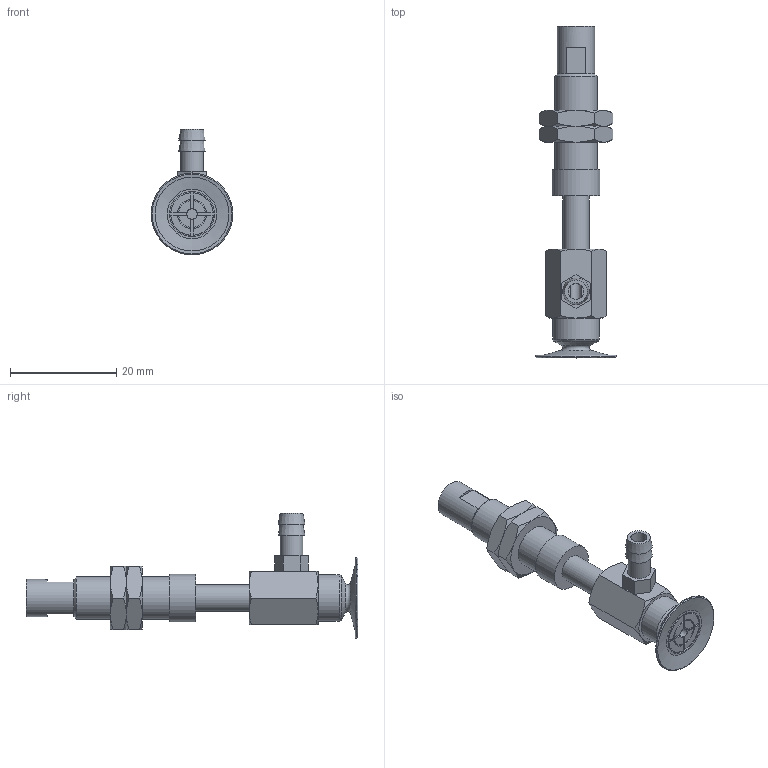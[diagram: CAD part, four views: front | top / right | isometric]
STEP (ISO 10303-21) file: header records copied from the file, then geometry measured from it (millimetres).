
FILE_DESCRIPTION(('STEP AP203'),'1');
FILE_NAME('-T.stp','2025-02-14T06:45:15',(' '),(' '),'Spatial InterOp 3D',' ',' ');
FILE_SCHEMA(('CONFIG_CONTROL_DESIGN'));
Length unit declared in the file: millimetre
Products named in the file (7): BNABPAYS-15B-10-※-T; NAPAYS-10A-10--M; NAPAYS-10A-10--F; Nut-10A-S; CONNECTOR-10A-10-PA; BPAG-15B-※_3D; T
Assembly tree (7 placements, depth 2):
  BNABPAYS-15B-10-※-T
    NAPAYS-10A-10--M
    NAPAYS-10A-10--F
    Nut-10A-S  x2
    CONNECTOR-10A-10-PA
    BPAG-15B-※_3D
    T
Bounding box: 15.4 x 62.5 x 23.7 mm (x, y, z)
Volume: 3697.9 mm3; surface area: 4849.9 mm2
Topology: 7 solids, 7 shells, 189 faces, 416 edges, 254 vertices
Faces by surface type: plane 83, cone 63, cylinder 33, torus 10
Full cylindrical faces by diameter (mm): 2 x2, 3 x1, 4 x2, 4.134 x2, 4.3 x1, 5 x4, 6 x2, 7 x1, 7.188 x2, 8 x1, 8.5 x1, 8.7 x1, 9 x1
Entity records: 4874 total; most frequent: CARTESIAN_POINT 1127, DIRECTION 714, ORIENTED_EDGE 622, EDGE_CURVE 311, AXIS2_PLACEMENT_3D 298, EDGE_LOOP 236, VERTEX_POINT 215, FACE_OUTER_BOUND 196
